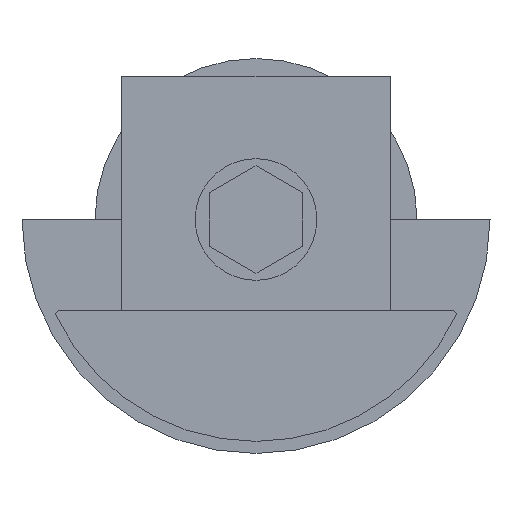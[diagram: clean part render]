
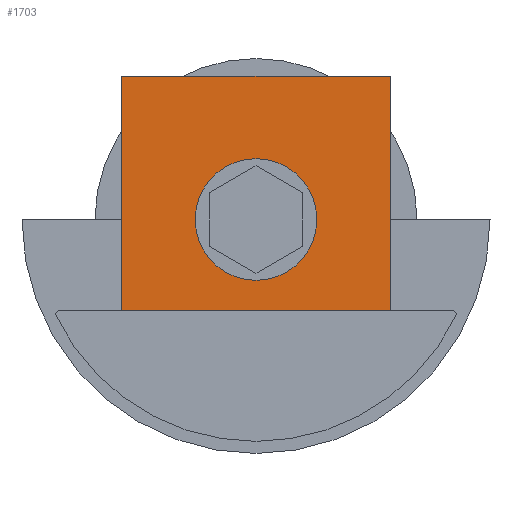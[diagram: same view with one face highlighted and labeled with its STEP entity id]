
A CAD part, left-side view. The second image highlights one B-rep face of the part: STEP entity #1703.
In plain terms, the highlighted planar face has unit normal (-1, 0, 0).
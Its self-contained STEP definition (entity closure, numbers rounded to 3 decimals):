
#28 = EDGE_CURVE ( 'NONE', #1702, #1144, #451, .T. ) ;
#72 = ORIENTED_EDGE ( 'NONE', *, *, #1267, .F. ) ;
#83 = ORIENTED_EDGE ( 'NONE', *, *, #28, .F. ) ;
#88 = DIRECTION ( 'NONE',  ( 0., 0., -1. ) ) ;
#139 = CARTESIAN_POINT ( 'NONE',  ( -231.5, -51.45, 20. ) ) ;
#227 = VECTOR ( 'NONE', #661, 1000. ) ;
#239 = CARTESIAN_POINT ( 'NONE',  ( -231.5, -32.7, 36.7 ) ) ;
#252 = ORIENTED_EDGE ( 'NONE', *, *, #1318, .F. ) ;
#325 = CARTESIAN_POINT ( 'NONE',  ( -231.5, -32.7, 32.7 ) ) ;
#330 = CARTESIAN_POINT ( 'NONE',  ( -231.5, -51.45, 52.7 ) ) ;
#367 = FACE_BOUND ( 'NONE', #1355, .T. ) ;
#396 = EDGE_CURVE ( 'NONE', #488, #527, #1170, .T. ) ;
#411 = VERTEX_POINT ( 'NONE', #139 ) ;
#451 = CIRCLE ( 'NONE', #1432, 4. ) ;
#458 = LINE ( 'NONE', #1235, #1088 ) ;
#482 = VECTOR ( 'NONE', #1162, 1000. ) ;
#488 = VERTEX_POINT ( 'NONE', #330 ) ;
#527 = VERTEX_POINT ( 'NONE', #1091 ) ;
#572 = EDGE_CURVE ( 'NONE', #1234, #527, #458, .T. ) ;
#577 = EDGE_LOOP ( 'NONE', ( #1907, #1136, #252, #72 ) ) ;
#585 = DIRECTION ( 'NONE',  ( -1., 0., 0. ) ) ;
#661 = DIRECTION ( 'NONE',  ( 0., 1., 0. ) ) ;
#664 = CARTESIAN_POINT ( 'NONE',  ( -231.5, -60.696, 52.7 ) ) ;
#718 = VECTOR ( 'NONE', #1964, 1000. ) ;
#783 = CARTESIAN_POINT ( 'NONE',  ( -231.5, -51.45, 52.7 ) ) ;
#852 = DIRECTION ( 'NONE',  ( 0., -1., 0. ) ) ;
#1027 = AXIS2_PLACEMENT_3D ( 'NONE', #664, #1452, #852 ) ;
#1088 = VECTOR ( 'NONE', #1849, 1000. ) ;
#1091 = CARTESIAN_POINT ( 'NONE',  ( -231.5, -13.95, 52.7 ) ) ;
#1136 = ORIENTED_EDGE ( 'NONE', *, *, #572, .F. ) ;
#1144 = VERTEX_POINT ( 'NONE', #1459 ) ;
#1162 = DIRECTION ( 'NONE',  ( 0., 1., 0. ) ) ;
#1170 = LINE ( 'NONE', #1956, #482 ) ;
#1197 = EDGE_CURVE ( 'NONE', #1144, #1702, #1304, .T. ) ;
#1234 = VERTEX_POINT ( 'NONE', #1500 ) ;
#1235 = CARTESIAN_POINT ( 'NONE',  ( -231.5, -13.95, 20. ) ) ;
#1267 = EDGE_CURVE ( 'NONE', #488, #411, #1518, .T. ) ;
#1275 = AXIS2_PLACEMENT_3D ( 'NONE', #325, #1853, #1677 ) ;
#1291 = FACE_OUTER_BOUND ( 'NONE', #577, .T. ) ;
#1304 = CIRCLE ( 'NONE', #1275, 4. ) ;
#1318 = EDGE_CURVE ( 'NONE', #411, #1234, #1397, .T. ) ;
#1355 = EDGE_LOOP ( 'NONE', ( #1973, #83 ) ) ;
#1397 = LINE ( 'NONE', #1417, #227 ) ;
#1417 = CARTESIAN_POINT ( 'NONE',  ( -231.5, -60.696, 20. ) ) ;
#1431 = PLANE ( 'NONE',  #1027 ) ;
#1432 = AXIS2_PLACEMENT_3D ( 'NONE', #1930, #585, #88 ) ;
#1452 = DIRECTION ( 'NONE',  ( 1., 0., 0. ) ) ;
#1459 = CARTESIAN_POINT ( 'NONE',  ( -231.5, -32.7, 28.7 ) ) ;
#1500 = CARTESIAN_POINT ( 'NONE',  ( -231.5, -13.95, 20. ) ) ;
#1518 = LINE ( 'NONE', #783, #718 ) ;
#1677 = DIRECTION ( 'NONE',  ( 0., 0., -1. ) ) ;
#1702 = VERTEX_POINT ( 'NONE', #239 ) ;
#1703 = ADVANCED_FACE ( 'NONE', ( #367, #1291 ), #1431, .F. ) ;
#1849 = DIRECTION ( 'NONE',  ( 0., 0., 1. ) ) ;
#1853 = DIRECTION ( 'NONE',  ( -1., 0., 0. ) ) ;
#1907 = ORIENTED_EDGE ( 'NONE', *, *, #396, .T. ) ;
#1930 = CARTESIAN_POINT ( 'NONE',  ( -231.5, -32.7, 32.7 ) ) ;
#1956 = CARTESIAN_POINT ( 'NONE',  ( -231.5, -60.696, 52.7 ) ) ;
#1964 = DIRECTION ( 'NONE',  ( 0., 0., -1. ) ) ;
#1973 = ORIENTED_EDGE ( 'NONE', *, *, #1197, .F. ) ;
